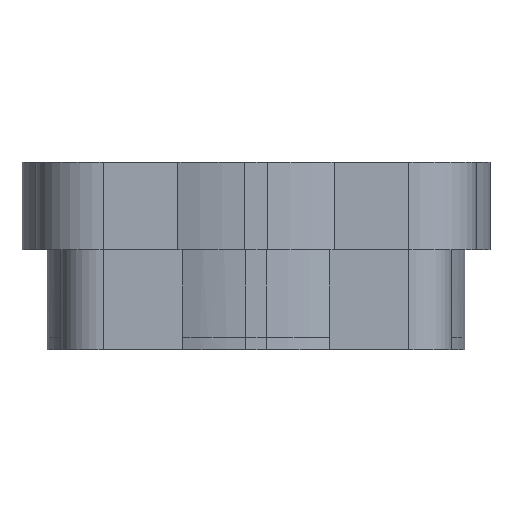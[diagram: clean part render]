
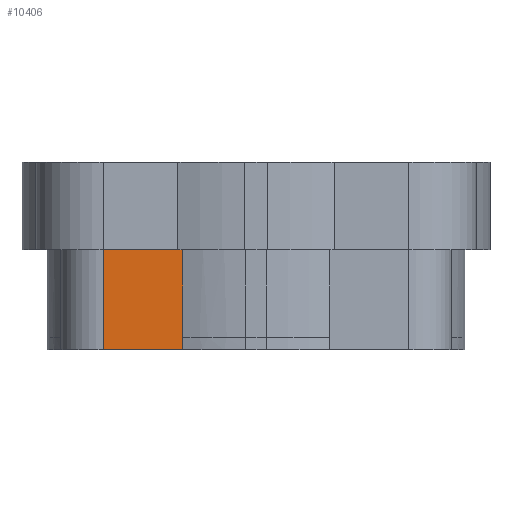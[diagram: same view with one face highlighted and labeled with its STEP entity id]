
A CAD part, front view. The second image highlights one B-rep face of the part: STEP entity #10406.
In plain terms, the highlighted planar face has unit normal (0, -1, 0).
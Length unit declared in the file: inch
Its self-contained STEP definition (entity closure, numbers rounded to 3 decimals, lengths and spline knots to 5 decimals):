
#9 = VECTOR ( 'NONE', #6355, 39.37008 ) ;
#53 = ORIENTED_EDGE ( 'NONE', *, *, #227, .F. ) ;
#227 = EDGE_CURVE ( 'NONE', #6529, #10410, #1295, .T. ) ;
#393 = CARTESIAN_POINT ( 'NONE',  ( 49.89882, 42.72878, 0.01667 ) ) ;
#427 = CARTESIAN_POINT ( 'NONE',  ( 49.58202, 42.72878, 0.4 ) ) ;
#784 = VERTEX_POINT ( 'NONE', #427 ) ;
#1250 = LINE ( 'NONE', #7171, #4747 ) ;
#1295 = LINE ( 'NONE', #8090, #9 ) ;
#1535 = CARTESIAN_POINT ( 'NONE',  ( 49.89885, 42.72878, 0.4 ) ) ;
#1641 = EDGE_LOOP ( 'NONE', ( #9954, #8360, #7476, #3751, #53 ) ) ;
#2086 = CARTESIAN_POINT ( 'NONE',  ( 49.89882, 42.72878, 0.03333 ) ) ;
#2281 = EDGE_CURVE ( 'NONE', #6529, #784, #1250, .T. ) ;
#2588 = DIRECTION ( 'NONE',  ( 0., 1., 0. ) ) ;
#2594 = VERTEX_POINT ( 'NONE', #2603 ) ;
#2603 = CARTESIAN_POINT ( 'NONE',  ( 49.58202, 42.72878, 0. ) ) ;
#2960 = EDGE_CURVE ( 'NONE', #2594, #3584, #6630, .T. ) ;
#3360 = PLANE ( 'NONE',  #8181 ) ;
#3414 = CARTESIAN_POINT ( 'NONE',  ( 49.89882, 42.72878, 0. ) ) ;
#3584 = VERTEX_POINT ( 'NONE', #3414 ) ;
#3751 = ORIENTED_EDGE ( 'NONE', *, *, #6190, .T. ) ;
#3906 = EDGE_CURVE ( 'NONE', #784, #2594, #9097, .T. ) ;
#4026 = DIRECTION ( 'NONE',  ( -1., 0., 0. ) ) ;
#4192 = FACE_OUTER_BOUND ( 'NONE', #1641, .T. ) ;
#4747 = VECTOR ( 'NONE', #10514, 39.37008 ) ;
#5594 = CARTESIAN_POINT ( 'NONE',  ( 0., 42.72878, 0. ) ) ;
#5647 = DIRECTION ( 'NONE',  ( 1., 0., 0. ) ) ;
#6183 = VECTOR ( 'NONE', #9969, 39.37008 ) ;
#6190 = EDGE_CURVE ( 'NONE', #3584, #10410, #10654, .T. ) ;
#6355 = DIRECTION ( 'NONE',  ( 0., 0., -1. ) ) ;
#6524 = VECTOR ( 'NONE', #5647, 39.37008 ) ;
#6529 = VERTEX_POINT ( 'NONE', #1535 ) ;
#6630 = LINE ( 'NONE', #5594, #6524 ) ;
#7171 = CARTESIAN_POINT ( 'NONE',  ( 49.58202, 42.72878, 0.4 ) ) ;
#7476 = ORIENTED_EDGE ( 'NONE', *, *, #2960, .T. ) ;
#7524 = CARTESIAN_POINT ( 'NONE',  ( 0., 42.72878, 0.05 ) ) ;
#8090 = CARTESIAN_POINT ( 'NONE',  ( 49.89885, 42.72878, 1.08949 ) ) ;
#8181 = AXIS2_PLACEMENT_3D ( 'NONE', #7524, #2588, #4026 ) ;
#8360 = ORIENTED_EDGE ( 'NONE', *, *, #3906, .T. ) ;
#9097 = LINE ( 'NONE', #9914, #6183 ) ;
#9275 = CARTESIAN_POINT ( 'NONE',  ( 49.89884, 42.72878, 0.05 ) ) ;
#9432 = CARTESIAN_POINT ( 'NONE',  ( 49.89882, 42.72878, 0. ) ) ;
#9914 = CARTESIAN_POINT ( 'NONE',  ( 49.58202, 42.72878, 0.05 ) ) ;
#9954 = ORIENTED_EDGE ( 'NONE', *, *, #2281, .T. ) ;
#9969 = DIRECTION ( 'NONE',  ( 0., 0., -1. ) ) ;
#10311 = CARTESIAN_POINT ( 'NONE',  ( 49.89884, 42.72878, 0.05 ) ) ;
#10406 = ADVANCED_FACE ( 'NONE', ( #4192 ), #3360, .F. ) ;
#10410 = VERTEX_POINT ( 'NONE', #9275 ) ;
#10514 = DIRECTION ( 'NONE',  ( -1., 0., 0. ) ) ;
#10654 = B_SPLINE_CURVE_WITH_KNOTS ( 'NONE', 3,
 ( #9432, #393, #2086, #10311 ),
 .UNSPECIFIED., .F., .F.,
 ( 4, 4 ),
 ( 0., 1. ),
 .UNSPECIFIED. ) ;
